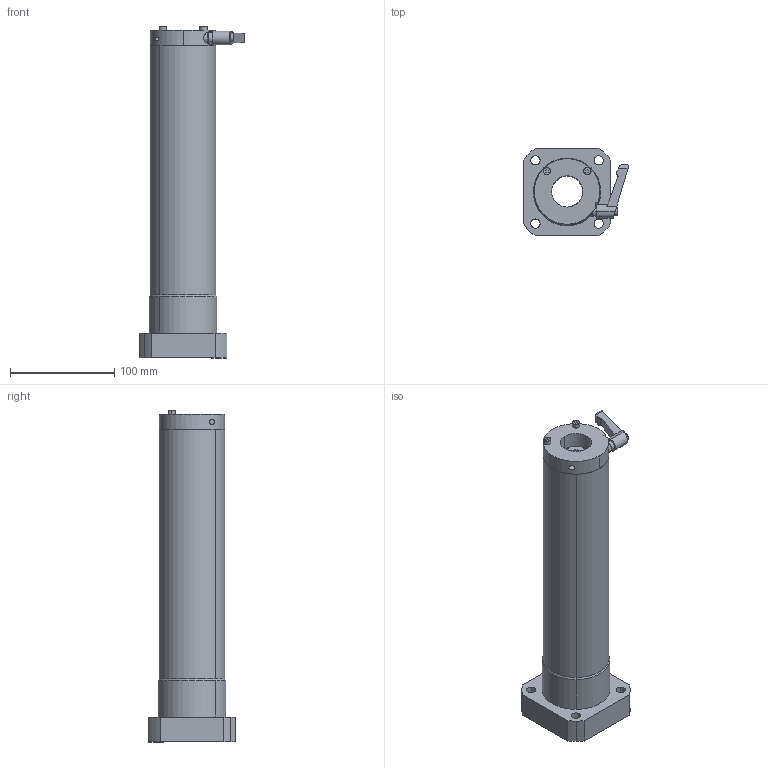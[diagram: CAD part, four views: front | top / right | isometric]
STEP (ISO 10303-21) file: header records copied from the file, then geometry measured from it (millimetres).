
FILE_DESCRIPTION (( 'STEP AP214' ), '1' );
FILE_NAME ('LFWL30BMF-C.STEP', '2023-06-27T04:27:11', ( '' ), ( '' ), 'SwSTEP 2.0', 'SolidWorks 2019', '' );
FILE_SCHEMA (( 'AUTOMOTIVE_DESIGN' ));
Length unit declared in the file: millimetre
Products named in the file (3): LFWL30BMF-C; “ÁSCK3015CO-S4.5; LFWL30BMF
Assembly tree (2 placements, depth 2):
  LFWL30BMF-C
    LFWL30BMF
    “ÁSCK3015CO-S4.5
Bounding box: 101.1 x 84 x 319 mm (x, y, z)
Volume: 846769.9 mm3; surface area: 128042.9 mm2
Topology: 3 solids, 9 shells, 213 faces, 541 edges, 342 vertices
Faces by surface type: cylinder 86, plane 63, bspline 43, cone 13, torus 8
Entity records: 9432 total; most frequent: CARTESIAN_POINT 2006, DIRECTION 1140, ORIENTED_EDGE 1082, EDGE_CURVE 541, AXIS2_PLACEMENT_3D 470, VERTEX_POINT 342, CIRCLE 295, EDGE_LOOP 257
